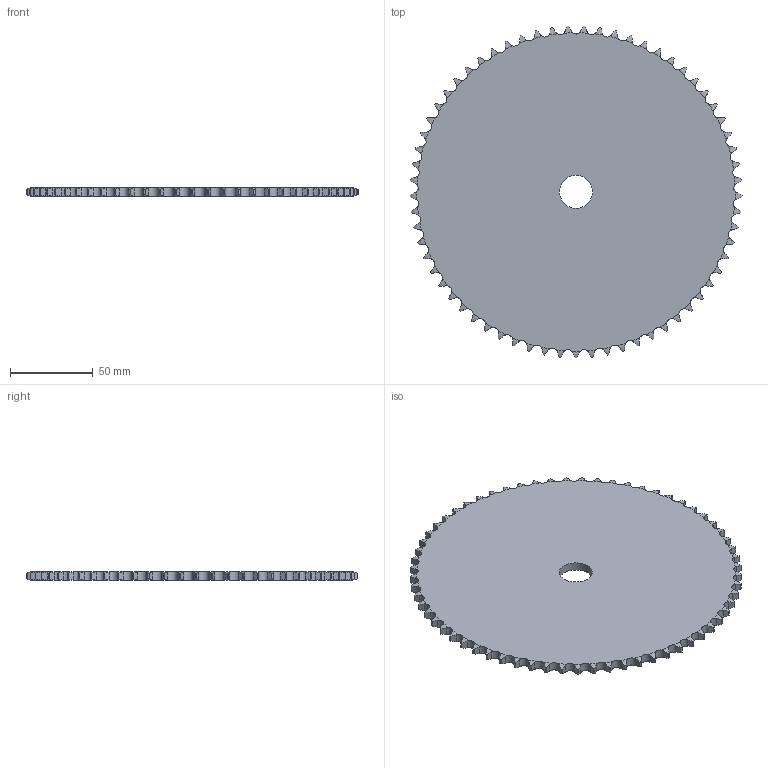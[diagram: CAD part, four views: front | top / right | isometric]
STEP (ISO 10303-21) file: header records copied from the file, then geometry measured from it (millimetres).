
FILE_DESCRIPTION((''),'2;1');
FILE_NAME('500-101-0065_PRT','2021-02-12T',('Brieden'),('Brieden'),'PRO/ENGINEER BY PARAMETRIC TECHNOLOGY CORPORATION, 2010160','PRO/ENGINEER BY PARAMETRIC TECHNOLOGY CORPORATION, 2010160','');
FILE_SCHEMA(('AUTOMOTIVE_DESIGN { 1 0 10303 214 1 1 1 1 }'));
Length unit declared in the file: millimetre
Products named in the file (1): 500-101-0065_PRT
Bounding box: 200.52 x 200.46 x 5.3 mm (x, y, z)
Volume: 155179.1 mm3; surface area: 63659.6 mm2
Topology: 1 solids, 1 shells, 394 faces, 1176 edges, 784 vertices
Faces by surface type: cylinder 262, torus 130, plane 2
Entity records: 19300 total; most frequent: CARTESIAN_POINT 5741, ORIENTED_EDGE 2352, DIRECTION 1838, PRESENTATION_STYLE_ASSIGNMENT 1177, STYLED_ITEM 1177, CURVE_STYLE 1176, EDGE_CURVE 1176, AXIS2_PLACEMENT_3D 788
